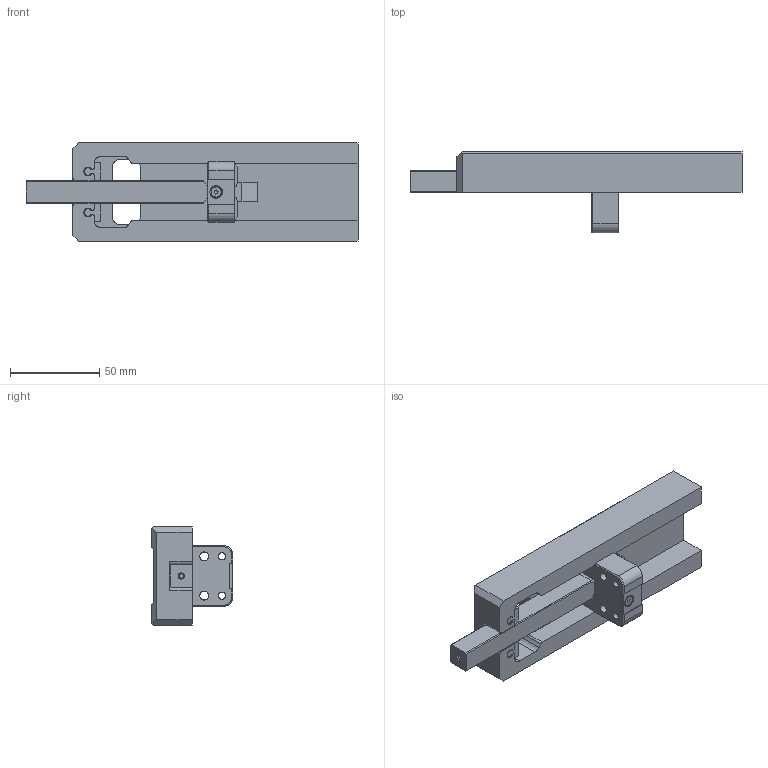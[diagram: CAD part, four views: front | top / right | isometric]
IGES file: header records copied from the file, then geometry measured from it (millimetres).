
Start section: SolidWorks IGES file using analytic representation for surfaces
Global section: file name: G:\CAD\Hakdrag\SA\SA-60\SA-60-160-00.IGS; native system: SolidWorks 2015; preprocessor: SolidWorks 2015; author: ChBe; date: 150616.065416; units: millimetre
Bounding box: 186.32 x 45.7 x 55 mm (x, y, z)
Surface area: 42948.4 mm2 (no closed solid volume)
Topology: 0 solids, 0 shells, 158 faces, 1762 edges, 1760 vertices
Faces by surface type: bspline 97, revolution 61
